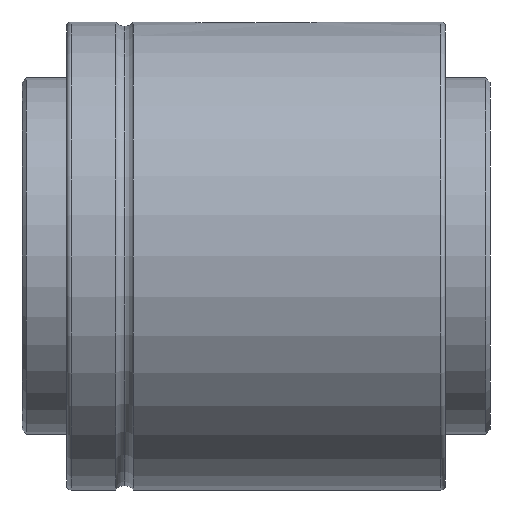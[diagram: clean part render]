
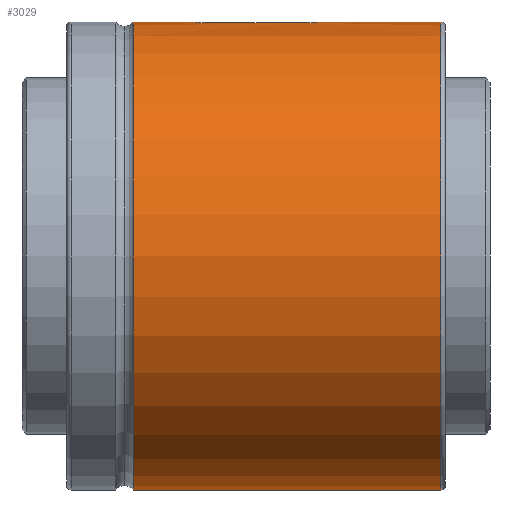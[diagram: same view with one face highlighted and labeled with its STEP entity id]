
A CAD part, front view. The second image highlights one B-rep face of the part: STEP entity #3029.
In plain terms, the highlighted cylindrical face has radius 52.5 mm (diameter 105 mm), a partial arc.
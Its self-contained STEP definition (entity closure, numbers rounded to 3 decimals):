
#28 = VERTEX_POINT ( 'NONE', #1194 ) ;
#54 = LINE ( 'NONE', #1717, #1347 ) ;
#61 = CARTESIAN_POINT ( 'NONE',  ( 30.211, -3.796, 52.363 ) ) ;
#82 = DIRECTION ( 'NONE',  ( -1., 0., 0. ) ) ;
#87 = CARTESIAN_POINT ( 'NONE',  ( 53.764, -4., 52.347 ) ) ;
#119 = CARTESIAN_POINT ( 'NONE',  ( 53.5, -4., 52.347 ) ) ;
#170 = DIRECTION ( 'NONE',  ( 0., 0., 1. ) ) ;
#181 = EDGE_CURVE ( 'NONE', #3256, #1764, #2424, .T. ) ;
#282 = CARTESIAN_POINT ( 'NONE',  ( 29.497, -3.472, 52.385 ) ) ;
#289 = CARTESIAN_POINT ( 'NONE',  ( 54.542, -3.871, 52.357 ) ) ;
#309 = CARTESIAN_POINT ( 'NONE',  ( 85., -4., 52.347 ) ) ;
#327 = CARTESIAN_POINT ( 'NONE',  ( 56.682, -2.437, 52.444 ) ) ;
#337 = CARTESIAN_POINT ( 'NONE',  ( 57.296, -1.289, 52.485 ) ) ;
#343 = CARTESIAN_POINT ( 'NONE',  ( 27.906, -1.775, 52.471 ) ) ;
#357 = FACE_OUTER_BOUND ( 'NONE', #798, .T. ) ;
#388 = VECTOR ( 'NONE', #82, 1000. ) ;
#541 = CARTESIAN_POINT ( 'NONE',  ( 29.727, -3.595, 52.377 ) ) ;
#555 = CARTESIAN_POINT ( 'NONE',  ( 28.323, -2.444, 52.444 ) ) ;
#581 = CARTESIAN_POINT ( 'NONE',  ( 27.526, -0.526, 52.498 ) ) ;
#647 = ORIENTED_EDGE ( 'NONE', *, *, #181, .T. ) ;
#650 = VECTOR ( 'NONE', #1219, 1000. ) ;
#677 = DIRECTION ( 'NONE',  ( -1., 0., 0. ) ) ;
#697 = ORIENTED_EDGE ( 'NONE', *, *, #1009, .T. ) ;
#772 = EDGE_CURVE ( 'NONE', #805, #3045, #2753, .T. ) ;
#798 = EDGE_LOOP ( 'NONE', ( #1498, #2590, #3123, #2320, #697, #647, #2808, #885 ) ) ;
#800 = CARTESIAN_POINT ( 'NONE',  ( 57.474, -0.524, 52.498 ) ) ;
#805 = VERTEX_POINT ( 'NONE', #1230 ) ;
#811 = CARTESIAN_POINT ( 'NONE',  ( 29.063, -3.182, 52.404 ) ) ;
#828 = CARTESIAN_POINT ( 'NONE',  ( 54.794, -3.794, 52.363 ) ) ;
#830 = EDGE_CURVE ( 'NONE', #805, #1926, #1610, .T. ) ;
#838 = CARTESIAN_POINT ( 'NONE',  ( 84., 0., 52.5 ) ) ;
#840 = CARTESIAN_POINT ( 'NONE',  ( 56.514, -2.643, 52.434 ) ) ;
#885 = ORIENTED_EDGE ( 'NONE', *, *, #2073, .T. ) ;
#940 = DIRECTION ( 'NONE',  ( 0., 0., 1. ) ) ;
#965 = CARTESIAN_POINT ( 'NONE',  ( 85., 0., -52.5 ) ) ;
#1009 = EDGE_CURVE ( 'NONE', #1469, #3256, #1733, .T. ) ;
#1030 = CYLINDRICAL_SURFACE ( 'NONE', #1613, 52.5 ) ;
#1043 = VERTEX_POINT ( 'NONE', #1808 ) ;
#1064 = CARTESIAN_POINT ( 'NONE',  ( 56.145, -3.012, 52.414 ) ) ;
#1081 = CARTESIAN_POINT ( 'NONE',  ( 27.629, -1.042, 52.49 ) ) ;
#1115 = CIRCLE ( 'NONE', #1527, 52.5 ) ;
#1194 = CARTESIAN_POINT ( 'NONE',  ( 15., 0., 52.5 ) ) ;
#1219 = DIRECTION ( 'NONE',  ( -1., 0., 0. ) ) ;
#1230 = CARTESIAN_POINT ( 'NONE',  ( 84., 0., -52.5 ) ) ;
#1291 = CARTESIAN_POINT ( 'NONE',  ( 31.5, -4., 52.347 ) ) ;
#1302 = CARTESIAN_POINT ( 'NONE',  ( 28.857, -3.014, 52.414 ) ) ;
#1310 = CARTESIAN_POINT ( 'NONE',  ( 54.026, -3.974, 52.349 ) ) ;
#1338 = CARTESIAN_POINT ( 'NONE',  ( 57.373, -1.035, 52.49 ) ) ;
#1347 = VECTOR ( 'NONE', #677, 1000. ) ;
#1360 = EDGE_CURVE ( 'NONE', #1926, #1043, #2890, .T. ) ;
#1379 = EDGE_CURVE ( 'NONE', #1043, #1469, #2102, .T. ) ;
#1428 = DIRECTION ( 'NONE',  ( -1., 0., 0. ) ) ;
#1469 = VERTEX_POINT ( 'NONE', #119 ) ;
#1490 = CARTESIAN_POINT ( 'NONE',  ( 15., 0., -52.5 ) ) ;
#1498 = ORIENTED_EDGE ( 'NONE', *, *, #772, .F. ) ;
#1527 = AXIS2_PLACEMENT_3D ( 'NONE', #2431, #2717, #940 ) ;
#1547 = CARTESIAN_POINT ( 'NONE',  ( 30.976, -3.974, 52.349 ) ) ;
#1555 = CARTESIAN_POINT ( 'NONE',  ( 57.095, -1.773, 52.471 ) ) ;
#1597 = CARTESIAN_POINT ( 'NONE',  ( 55.275, -3.594, 52.377 ) ) ;
#1610 = CIRCLE ( 'NONE', #2476, 52.5 ) ;
#1613 = AXIS2_PLACEMENT_3D ( 'NONE', #2925, #1428, #170 ) ;
#1717 = CARTESIAN_POINT ( 'NONE',  ( 85., 0., 52.5 ) ) ;
#1733 = LINE ( 'NONE', #309, #388 ) ;
#1762 = CARTESIAN_POINT ( 'NONE',  ( 27.5, 0., 52.5 ) ) ;
#1764 = VERTEX_POINT ( 'NONE', #1762 ) ;
#1803 = CARTESIAN_POINT ( 'NONE',  ( 31.236, -4., 52.347 ) ) ;
#1808 = CARTESIAN_POINT ( 'NONE',  ( 57.5, 0., 52.5 ) ) ;
#1812 = CARTESIAN_POINT ( 'NONE',  ( 57.5, 0., 52.5 ) ) ;
#1926 = VERTEX_POINT ( 'NONE', #838 ) ;
#1972 = VECTOR ( 'NONE', #2814, 1000. ) ;
#2046 = EDGE_CURVE ( 'NONE', #1764, #28, #54, .T. ) ;
#2067 = CARTESIAN_POINT ( 'NONE',  ( 85., 0., 52.5 ) ) ;
#2073 = EDGE_CURVE ( 'NONE', #28, #3045, #1115, .T. ) ;
#2102 = B_SPLINE_CURVE_WITH_KNOTS ( 'NONE', 3,
 ( #1812, #2807, #800, #1338, #337, #1555, #3094, #327, #840, #1064, #2567, #2345, #1597, #828, #289, #1310, #87, #3065 ),
 .UNSPECIFIED., .F., .F.,
 ( 4, 2, 2, 2, 2, 2, 2, 2, 4 ),
 ( 0.006, 0.007, 0.008, 0.009, 0.009, 0.01, 0.011, 0.012, 0.013 ),
 .UNSPECIFIED. ) ;
#2130 = CARTESIAN_POINT ( 'NONE',  ( 27.706, -1.294, 52.485 ) ) ;
#2240 = DIRECTION ( 'NONE',  ( 0., 0., -1. ) ) ;
#2320 = ORIENTED_EDGE ( 'NONE', *, *, #1379, .T. ) ;
#2345 = CARTESIAN_POINT ( 'NONE',  ( 55.507, -3.47, 52.385 ) ) ;
#2424 = B_SPLINE_CURVE_WITH_KNOTS ( 'NONE', 3,
 ( #1291, #1803, #1547, #2801, #61, #541, #282, #811, #1302, #3058, #555, #2579, #343, #2130, #1081, #581, #3120, #2826 ),
 .UNSPECIFIED., .F., .F.,
 ( 4, 2, 2, 2, 2, 2, 2, 2, 4 ),
 ( -0.006, -0.005, -0.005, -0.004, -0.003, -0.002, -0.002, -0.001, 0. ),
 .UNSPECIFIED. ) ;
#2431 = CARTESIAN_POINT ( 'NONE',  ( 15., 0., 0. ) ) ;
#2476 = AXIS2_PLACEMENT_3D ( 'NONE', #2738, #2477, #2240 ) ;
#2477 = DIRECTION ( 'NONE',  ( -1., 0., 0. ) ) ;
#2567 = CARTESIAN_POINT ( 'NONE',  ( 55.944, -3.177, 52.404 ) ) ;
#2579 = CARTESIAN_POINT ( 'NONE',  ( 28.03, -2.007, 52.462 ) ) ;
#2590 = ORIENTED_EDGE ( 'NONE', *, *, #830, .T. ) ;
#2717 = DIRECTION ( 'NONE',  ( 1., 0., 0. ) ) ;
#2738 = CARTESIAN_POINT ( 'NONE',  ( 84., 0., 0. ) ) ;
#2753 = LINE ( 'NONE', #965, #650 ) ;
#2801 = CARTESIAN_POINT ( 'NONE',  ( 30.465, -3.873, 52.357 ) ) ;
#2807 = CARTESIAN_POINT ( 'NONE',  ( 57.5, -0.264, 52.5 ) ) ;
#2808 = ORIENTED_EDGE ( 'NONE', *, *, #2046, .T. ) ;
#2814 = DIRECTION ( 'NONE',  ( -1., 0., 0. ) ) ;
#2821 = CARTESIAN_POINT ( 'NONE',  ( 31.5, -4., 52.347 ) ) ;
#2826 = CARTESIAN_POINT ( 'NONE',  ( 27.5, 0., 52.5 ) ) ;
#2890 = LINE ( 'NONE', #2067, #1972 ) ;
#2925 = CARTESIAN_POINT ( 'NONE',  ( 85., 0., 0. ) ) ;
#3029 = ADVANCED_FACE ( 'NONE', ( #357 ), #1030, .T. ) ;
#3045 = VERTEX_POINT ( 'NONE', #1490 ) ;
#3058 = CARTESIAN_POINT ( 'NONE',  ( 28.488, -2.645, 52.434 ) ) ;
#3065 = CARTESIAN_POINT ( 'NONE',  ( 53.5, -4., 52.347 ) ) ;
#3094 = CARTESIAN_POINT ( 'NONE',  ( 56.972, -2.003, 52.462 ) ) ;
#3120 = CARTESIAN_POINT ( 'NONE',  ( 27.5, -0.264, 52.5 ) ) ;
#3123 = ORIENTED_EDGE ( 'NONE', *, *, #1360, .T. ) ;
#3256 = VERTEX_POINT ( 'NONE', #2821 ) ;
